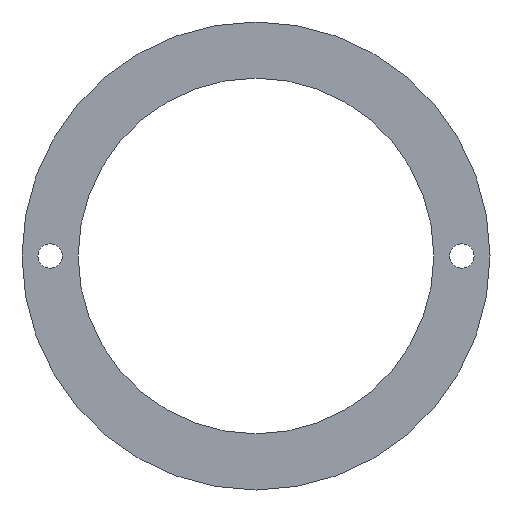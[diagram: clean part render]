
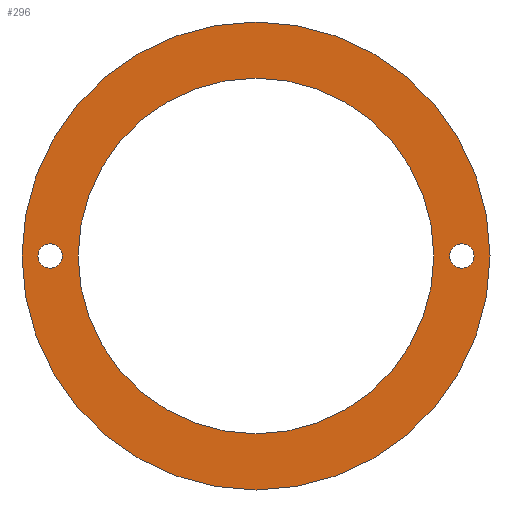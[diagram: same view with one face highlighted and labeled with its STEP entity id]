
A CAD part, front view. The second image highlights one B-rep face of the part: STEP entity #296.
In plain terms, the highlighted planar face has unit normal (0, -1, 0).
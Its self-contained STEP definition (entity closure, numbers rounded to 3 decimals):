
#1 = CARTESIAN_POINT ( 'NONE',  ( 0., 0., 0. ) ) ;
#5 = CARTESIAN_POINT ( 'NONE',  ( -55., 0., 0. ) ) ;
#8 = DIRECTION ( 'NONE',  ( 0., 1., 0. ) ) ;
#12 = ORIENTED_EDGE ( 'NONE', *, *, #23, .T. ) ;
#14 = VERTEX_POINT ( 'NONE', #265 ) ;
#21 = EDGE_LOOP ( 'NONE', ( #314, #30 ) ) ;
#23 = EDGE_CURVE ( 'NONE', #305, #257, #25, .T. ) ;
#25 = CIRCLE ( 'NONE', #136, 3.25 ) ;
#30 = ORIENTED_EDGE ( 'NONE', *, *, #105, .T. ) ;
#35 = CIRCLE ( 'NONE', #173, 3.25 ) ;
#36 = DIRECTION ( 'NONE',  ( 0., 0., 1. ) ) ;
#46 = CIRCLE ( 'NONE', #328, 3.25 ) ;
#56 = DIRECTION ( 'NONE',  ( 0., 0., 1. ) ) ;
#58 = CARTESIAN_POINT ( 'NONE',  ( 55., 0., -3.25 ) ) ;
#62 = DIRECTION ( 'NONE',  ( 0., 1., 0. ) ) ;
#65 = ORIENTED_EDGE ( 'NONE', *, *, #330, .F. ) ;
#67 = FACE_BOUND ( 'NONE', #181, .T. ) ;
#73 = AXIS2_PLACEMENT_3D ( 'NONE', #91, #62, #36 ) ;
#83 = DIRECTION ( 'NONE',  ( 0., 0., 1. ) ) ;
#84 = EDGE_CURVE ( 'NONE', #166, #124, #35, .T. ) ;
#86 = CARTESIAN_POINT ( 'NONE',  ( 55., 0., 3.25 ) ) ;
#91 = CARTESIAN_POINT ( 'NONE',  ( 0., 0., 0. ) ) ;
#99 = EDGE_LOOP ( 'NONE', ( #224, #12 ) ) ;
#105 = EDGE_CURVE ( 'NONE', #151, #109, #134, .T. ) ;
#108 = DIRECTION ( 'NONE',  ( 0., 1., 0. ) ) ;
#109 = VERTEX_POINT ( 'NONE', #135 ) ;
#124 = VERTEX_POINT ( 'NONE', #221 ) ;
#128 = CIRCLE ( 'NONE', #180, 3.25 ) ;
#134 = CIRCLE ( 'NONE', #252, 47.5 ) ;
#135 = CARTESIAN_POINT ( 'NONE',  ( 0., 0., -47.5 ) ) ;
#136 = AXIS2_PLACEMENT_3D ( 'NONE', #350, #240, #178 ) ;
#137 = DIRECTION ( 'NONE',  ( 0., 0., 1. ) ) ;
#138 = CARTESIAN_POINT ( 'NONE',  ( 0., 0., 47.5 ) ) ;
#143 = ORIENTED_EDGE ( 'NONE', *, *, #144, .F. ) ;
#144 = EDGE_CURVE ( 'NONE', #14, #290, #343, .T. ) ;
#151 = VERTEX_POINT ( 'NONE', #138 ) ;
#159 = DIRECTION ( 'NONE',  ( 0., 1., 0. ) ) ;
#163 = CARTESIAN_POINT ( 'NONE',  ( -55., 0., 3.25 ) ) ;
#166 = VERTEX_POINT ( 'NONE', #163 ) ;
#170 = CARTESIAN_POINT ( 'NONE',  ( 0., 0., 0. ) ) ;
#173 = AXIS2_PLACEMENT_3D ( 'NONE', #331, #159, #361 ) ;
#178 = DIRECTION ( 'NONE',  ( 0., 0., 1. ) ) ;
#180 = AXIS2_PLACEMENT_3D ( 'NONE', #5, #228, #56 ) ;
#181 = EDGE_LOOP ( 'NONE', ( #270, #229 ) ) ;
#192 = DIRECTION ( 'NONE',  ( 0., 1., 0. ) ) ;
#198 = DIRECTION ( 'NONE',  ( 0., 0., 1. ) ) ;
#201 = EDGE_CURVE ( 'NONE', #124, #166, #128, .T. ) ;
#206 = CARTESIAN_POINT ( 'NONE',  ( 55., 0., 0. ) ) ;
#209 = FACE_OUTER_BOUND ( 'NONE', #304, .T. ) ;
#220 = CIRCLE ( 'NONE', #73, 62.5 ) ;
#221 = CARTESIAN_POINT ( 'NONE',  ( -55., 0., -3.25 ) ) ;
#224 = ORIENTED_EDGE ( 'NONE', *, *, #297, .T. ) ;
#225 = DIRECTION ( 'NONE',  ( 0., 0., 1. ) ) ;
#227 = CARTESIAN_POINT ( 'NONE',  ( 0., 0., 0. ) ) ;
#228 = DIRECTION ( 'NONE',  ( 0., 1., 0. ) ) ;
#229 = ORIENTED_EDGE ( 'NONE', *, *, #84, .T. ) ;
#240 = DIRECTION ( 'NONE',  ( 0., 1., 0. ) ) ;
#251 = CIRCLE ( 'NONE', #256, 47.5 ) ;
#252 = AXIS2_PLACEMENT_3D ( 'NONE', #276, #108, #137 ) ;
#256 = AXIS2_PLACEMENT_3D ( 'NONE', #170, #8, #198 ) ;
#257 = VERTEX_POINT ( 'NONE', #58 ) ;
#259 = EDGE_CURVE ( 'NONE', #109, #151, #251, .T. ) ;
#260 = CARTESIAN_POINT ( 'NONE',  ( 0., 0., 62.5 ) ) ;
#265 = CARTESIAN_POINT ( 'NONE',  ( 0., 0., -62.5 ) ) ;
#270 = ORIENTED_EDGE ( 'NONE', *, *, #201, .T. ) ;
#276 = CARTESIAN_POINT ( 'NONE',  ( 0., 0., 0. ) ) ;
#286 = AXIS2_PLACEMENT_3D ( 'NONE', #1, #192, #225 ) ;
#290 = VERTEX_POINT ( 'NONE', #260 ) ;
#296 = ADVANCED_FACE ( 'NONE', ( #209, #329, #67, #358 ), #344, .F. ) ;
#297 = EDGE_CURVE ( 'NONE', #257, #305, #46, .T. ) ;
#304 = EDGE_LOOP ( 'NONE', ( #143, #65 ) ) ;
#305 = VERTEX_POINT ( 'NONE', #86 ) ;
#314 = ORIENTED_EDGE ( 'NONE', *, *, #259, .T. ) ;
#319 = DIRECTION ( 'NONE',  ( 0., 0., 1. ) ) ;
#328 = AXIS2_PLACEMENT_3D ( 'NONE', #206, #345, #319 ) ;
#329 = FACE_BOUND ( 'NONE', #21, .T. ) ;
#330 = EDGE_CURVE ( 'NONE', #290, #14, #220, .T. ) ;
#331 = CARTESIAN_POINT ( 'NONE',  ( -55., 0., 0. ) ) ;
#338 = DIRECTION ( 'NONE',  ( 0., 1., 0. ) ) ;
#343 = CIRCLE ( 'NONE', #286, 62.5 ) ;
#344 = PLANE ( 'NONE',  #349 ) ;
#345 = DIRECTION ( 'NONE',  ( 0., 1., 0. ) ) ;
#349 = AXIS2_PLACEMENT_3D ( 'NONE', #227, #338, #83 ) ;
#350 = CARTESIAN_POINT ( 'NONE',  ( 55., 0., 0. ) ) ;
#358 = FACE_BOUND ( 'NONE', #99, .T. ) ;
#361 = DIRECTION ( 'NONE',  ( 0., 0., 1. ) ) ;
